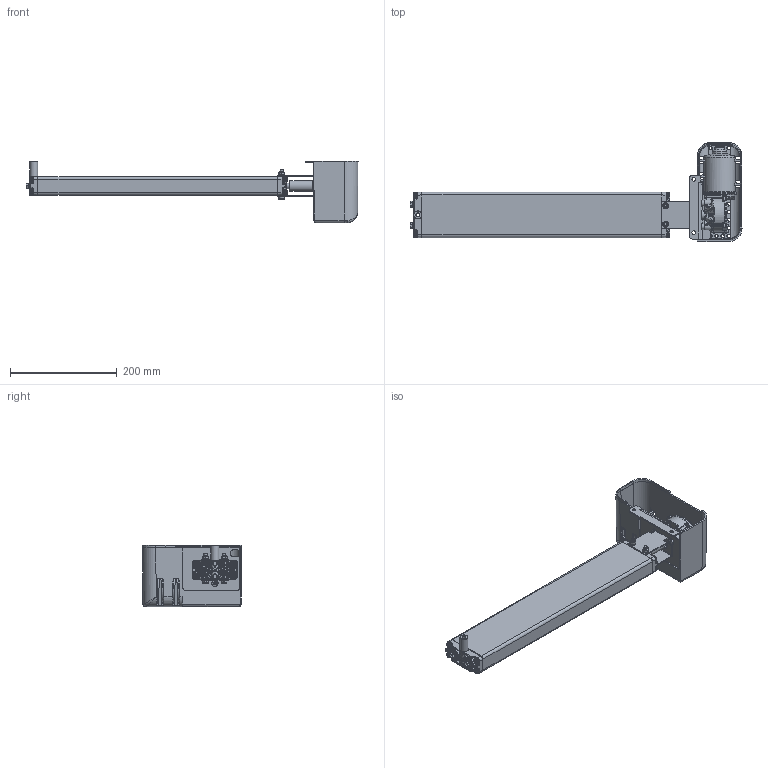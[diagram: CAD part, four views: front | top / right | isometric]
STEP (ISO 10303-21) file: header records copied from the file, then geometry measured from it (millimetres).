
FILE_DESCRIPTION(/* description */ ('Unknown'),/* implementation_level */ '2;1');
FILE_NAME(/* name */ '3X0.20056 Pumpe PA 2660 W mit Antrieb',/* time_stamp */ '2016-08-10T16:38:57+02:00',/* author */ ('Unknown'),/* organization */ ('Unknown'),/* preprocessor_version */ 'ST-DEVELOPER v16.7',/* originating_system */ 'DEX',/* authorisation */ $);
FILE_SCHEMA (('AUTOMOTIVE_DESIGN {1 0 10303 214 3 1 1}'));
Products named in the file (30): 100.20056; 115.00042; 125.00046; 142.00021; 125.00021; 115.00003; 142.00013; 125.00143; 122.00040; 126.00002; 119.00023; 126.00001; 127.00202; 127.00200; 127.00029; 124.00090; Getriebe; Ring; Schraube; Stator; Abdeckplatte; Antriebswelle; 128.00051; 123.00030; 142.00018; 142.00019; 142.00036; 142.00131; 123.00029; 142.00057
Assembly tree (42 placements, depth 3):
  100.20056
    115.00042  x2
      125.00046
      142.00021
      125.00021
      115.00003
    142.00013  x8
    125.00143
    122.00040
    126.00002
    119.00023
    126.00001
    127.00202
      127.00200
      127.00029
    124.00090
      Getriebe
      Ring
      Schraube
      Stator
      Abdeckplatte
      Antriebswelle
    128.00051
    123.00030
    142.00018  x2
    142.00019  x2
    142.00036  x2
    142.00131  x3
    123.00029
    142.00057
Bounding box: 623.42 x 186.04 x 115.45 mm (x, y, z)
Volume: 935509 mm3; surface area: 535766.8 mm2
Topology: 40 solids, 40 shells, 4148 faces, 10487 edges, 6361 vertices
Faces by surface type: plane 1169, bspline 1140, cylinder 1132, cone 425, torus 196, sphere 86
Full cylindrical faces by diameter (mm): 2.5 x4, 3.2 x4, 3.5 x2, 3.9 x5, 4.1 x2, 4.2 x4, 4.4 x5, 4.5 x1, 4.917 x2, 5 x8, 5.5 x5, 6 x6, 6.4 x2, 6.8 x9, 6.917 x4, 7 x1, 8 x6, 8.5 x2, 9 x2, 9.5 x1, 9.8 x8, 10 x8, 10.3 x1, 10.32 x1, 10.4 x1, 11 x5, 14 x2, 15 x1, 17 x1, 17.3 x2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
Entity records: 169163 total; most frequent: CARTESIAN_POINT 89287, ORIENTED_EDGE 16600, DIRECTION 12162, EDGE_CURVE 8300, VERTEX_POINT 5374, AXIS2_PLACEMENT_3D 4821, FACE_BOUND 4048, EDGE_LOOP 4044
